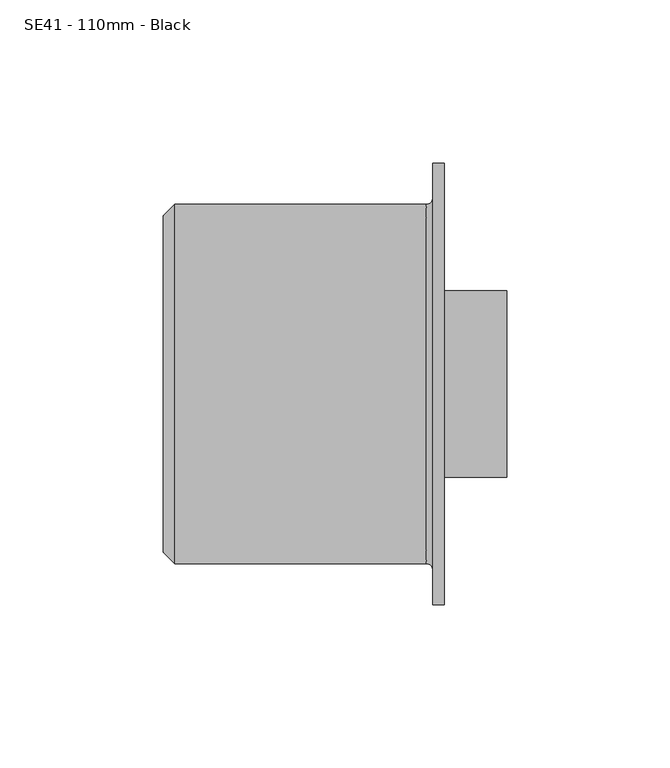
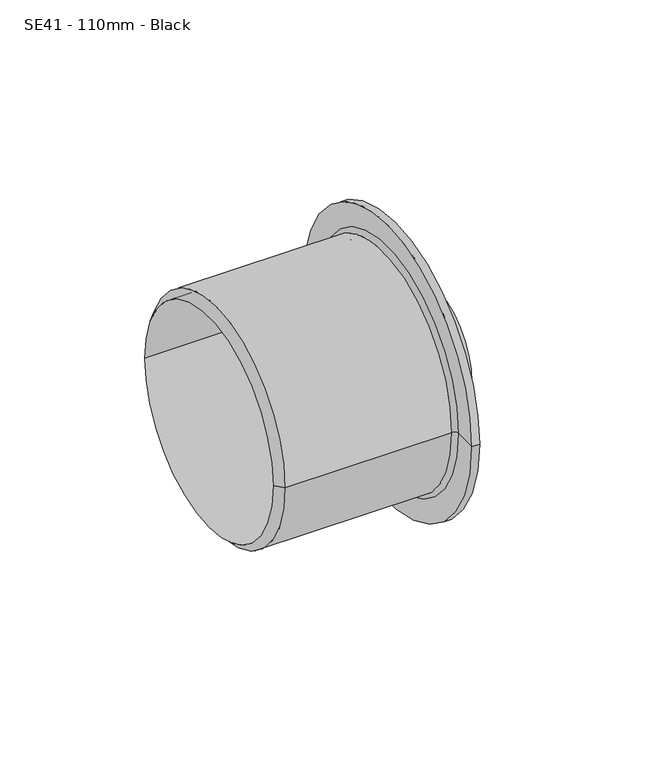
"""IFC4 building model written with IfcOpenShell, lengths in millimetres: pipe fitting geometry, MarleyPlumbingAndDrainage_PipeFitting_ConcentricReducer_SE41 : SE41 - 110mm - Black."""

from ifc_helpers import new_model, si_unit, point, frame, origin, place, context, project, spatial, polyline, circle_curve, ellipse_curve, trimmed, source, transform, mapped, element, save
from ifc_brep_helpers import plane_surface, cylinder_surface, revolved_surface, advanced_brep


def se41_110mm_black_c3975711(model_context):
    return source(origin(), model_context, "Body", "AdvancedBrep", [
        advanced_brep(
        [(-14.8253818, -51.5, 0.0), (-14.8253818, 51.5, 0.0), (-97.3253818, 51.5, 0.0), (-97.3253818, -51.5, 0.0), (-14.8253818, -25.0, 0.0), (-14.8253818, 25.0, 0.0), (7.6746182, -25.0, 0.0), (7.6746182, 25.0, 0.0), (7.6746182, -28.5, 0.0), (7.6746182, 28.5, 0.0), (-11.3253818, -28.5, 0.0), (-11.3253818, 28.5, 0.0), (-11.3253818, -67.5, 0.0), (-11.3253818, 67.5, 0.0), (-14.8253818, -67.5, 0.0), (-14.8253818, 67.5, 0.0), (-14.8253818, -57.0295216, 0.0), (-14.8253818, 57.0295216, 0.0), (-16.8549034, -55.0, 0.0), (-16.8549034, 55.0, 0.0), (-93.8253818, -55.0, 0.0), (-93.8253818, 55.0, 0.0)],
        [
            (0, 1, circle_curve(frame((-14.8253818, 0.0, 0.0), z_axis=(1.0, 0.0, 0.0), x_axis=(0.0, 1.0, 0.0)), 51.5)),
            (1, 2),
            (2, 3, circle_curve(frame((-97.3253818, 0.0, 0.0), z_axis=(-1.0, 0.0, 0.0), x_axis=(0.0, 1.0, 0.0)), 51.5)),
            (3, 0),
            (1, 0, circle_curve(frame((-14.8253818, 0.0, 0.0), z_axis=(1.0, 0.0, 0.0), x_axis=(0.0, 1.0, 0.0)), 51.5)),
            (3, 2, circle_curve(frame((-97.3253818, 0.0, 0.0), z_axis=(-1.0, 0.0, 0.0), x_axis=(0.0, 1.0, 0.0)), 51.5)),
            (4, 5, circle_curve(frame((-14.8253818, 0.0, 0.0), z_axis=(1.0, 0.0, 0.0), x_axis=(0.0, 1.0, 0.0)), 25.0)),
            (5, 1),
            (0, 4),
            (5, 4, circle_curve(frame((-14.8253818, 0.0, 0.0), z_axis=(1.0, 0.0, 0.0), x_axis=(0.0, 1.0, 0.0)), 25.0)),
            (6, 7, circle_curve(frame((7.6746182, 0.0, 0.0), z_axis=(1.0, 0.0, 0.0), x_axis=(0.0, 1.0, 0.0)), 25.0)),
            (7, 5),
            (4, 6),
            (7, 6, circle_curve(frame((7.6746182, 0.0, 0.0), z_axis=(1.0, 0.0, 0.0), x_axis=(0.0, 1.0, 0.0)), 25.0)),
            (8, 9, circle_curve(frame((7.6746182, 0.0, 0.0), z_axis=(1.0, 0.0, 0.0), x_axis=(0.0, 1.0, 0.0)), 28.5)),
            (9, 7),
            (6, 8),
            (9, 8, circle_curve(frame((7.6746182, 0.0, 0.0), z_axis=(1.0, 0.0, 0.0), x_axis=(0.0, 1.0, 0.0)), 28.5)),
            (10, 11, circle_curve(frame((-11.3253818, 0.0, 0.0), z_axis=(1.0, 0.0, 0.0), x_axis=(0.0, 1.0, 0.0)), 28.5)),
            (11, 9),
            (8, 10),
            (11, 10, circle_curve(frame((-11.3253818, 0.0, 0.0), z_axis=(1.0, 0.0, 0.0), x_axis=(0.0, 1.0, 0.0)), 28.5)),
            (12, 13, circle_curve(frame((-11.3253818, 0.0, 0.0), z_axis=(1.0, 0.0, 0.0), x_axis=(0.0, 1.0, 0.0)), 67.5)),
            (13, 11),
            (10, 12),
            (13, 12, circle_curve(frame((-11.3253818, 0.0, 0.0), z_axis=(1.0, 0.0, 0.0), x_axis=(0.0, 1.0, 0.0)), 67.5)),
            (14, 15, circle_curve(frame((-14.8253818, 0.0, 0.0), z_axis=(1.0, 0.0, 0.0), x_axis=(0.0, 1.0, 0.0)), 67.5)),
            (15, 13),
            (12, 14),
            (15, 14, circle_curve(frame((-14.8253818, 0.0, 0.0), z_axis=(1.0, 0.0, 0.0), x_axis=(0.0, 1.0, 0.0)), 67.5)),
            (16, 17, circle_curve(frame((-14.8253818, 0.0, 0.0), z_axis=(1.0, 0.0, 0.0), x_axis=(0.0, 1.0, 0.0)), 57.0295216)),
            (17, 15),
            (14, 16),
            (17, 16, circle_curve(frame((-14.8253818, 0.0, 0.0), z_axis=(1.0, 0.0, 0.0), x_axis=(0.0, 1.0, 0.0)), 57.0295216)),
            (18, 19, circle_curve(frame((-16.8549034, 0.0, 0.0), z_axis=(1.0, 0.0, 0.0), x_axis=(0.0, 1.0, 0.0)), 55.0)),
            (19, 17, circle_curve(frame((-16.8549034, 57.0295216, 0.0), z_axis=(0.0, 0.0, 1.0), x_axis=(1.0, 0.0, 0.0)), 2.0295216)),
            (16, 18, circle_curve(frame((-16.8549034, -57.0295216, 0.0), z_axis=(0.0, 0.0, 1.0), x_axis=(1.0, 0.0, 0.0)), 2.0295216)),
            (19, 18, circle_curve(frame((-16.8549034, 0.0, 0.0), z_axis=(1.0, 0.0, 0.0), x_axis=(0.0, 1.0, 0.0)), 55.0)),
            (20, 21, circle_curve(frame((-93.8253818, 0.0, 0.0), z_axis=(1.0, 0.0, 0.0), x_axis=(0.0, 1.0, 0.0)), 55.0)),
            (21, 19),
            (18, 20),
            (21, 20, circle_curve(frame((-93.8253818, 0.0, 0.0), z_axis=(1.0, 0.0, 0.0), x_axis=(0.0, 1.0, 0.0)), 55.0)),
            (2, 21),
            (20, 3),
        ],
        [
            revolved_surface(polyline([(-97.32538180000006, 51.5, 0.0), (-14.82538180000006, 51.5, 0.0)]), (2000.3, 0.0, 0.0), (-1.0, 0.0, 0.0)),
            plane_surface(frame((-14.8253818, 0.0, 0.0), z_axis=(-1.0, 0.0, 0.0), x_axis=(0.0, 1.0, 0.0))),
            revolved_surface(polyline([(-14.82538180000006, 25.0, 0.0), (7.674618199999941, 25.0, 0.0)]), (2000.3, 0.0, 0.0), (-1.0, 0.0, 0.0)),
            plane_surface(frame((7.6746182, 0.0, 0.0), z_axis=(1.0, 0.0, 0.0), x_axis=(0.0, 1.0, 0.0))),
            cylinder_surface(frame((2000.3, 0.0, 0.0), z_axis=(-1.0, 0.0, 0.0), x_axis=(0.0, 1.0, 0.0)), 28.5),
            plane_surface(frame((-11.3253818, 0.0, 0.0), z_axis=(1.0, 0.0, 0.0), x_axis=(0.0, 1.0, 0.0))),
            cylinder_surface(frame((2000.3, 0.0, 0.0), z_axis=(-1.0, 0.0, 0.0), x_axis=(0.0, 1.0, 0.0)), 67.5),
            revolved_surface(trimmed(ellipse_curve(frame((-16.8549034, 57.0295216, 0.0), z_axis=(0.0, 0.0, -1.0), x_axis=(1.0, 0.0, 0.0)), 2.0295216, 2.0295216), [point((-14.8253818, 57.0295216, 0.0))], [point((-16.8549034, 55.0, 0.0))], True, "CARTESIAN"), (2000.3, 0.0, 0.0), (-1.0, 0.0, 0.0)),
            cylinder_surface(frame((2000.3, 0.0, 0.0), z_axis=(-1.0, 0.0, 0.0), x_axis=(0.0, 1.0, 0.0)), 55.0),
            revolved_surface(polyline([(-93.8253818, 55.0, 0.0), (-97.3253818, 51.5, 0.0)]), (2000.3, 0.0, 0.0), (-1.0, 0.0, 0.0)),
        ],
        [
            (0, [[1, 2, 3, 4]]),
            (0, [[5, -4, 6, -2]]),
            (1, [[7, 8, -1, 9]]),
            (1, [[10, -9, -5, -8]]),
            (2, [[11, 12, -7, 13]]),
            (2, [[14, -13, -10, -12]]),
            (3, [[15, 16, -11, 17]]),
            (3, [[18, -17, -14, -16]]),
            (4, [[19, 20, -15, 21]]),
            (4, [[22, -21, -18, -20]]),
            (5, [[23, 24, -19, 25]]),
            (5, [[26, -25, -22, -24]]),
            (6, [[27, 28, -23, 29]]),
            (6, [[30, -29, -26, -28]]),
            (1, [[31, 32, -27, 33]]),
            (1, [[34, -33, -30, -32]]),
            (7, [[35, 36, -31, 37]]),
            (7, [[38, -37, -34, -36]]),
            (8, [[39, 40, -35, 41]]),
            (8, [[42, -41, -38, -40]]),
            (9, [[-3, 43, -39, 44]]),
            (9, [[-6, -44, -42, -43]]),
        ],
    ),
    ])


if __name__ == "__main__":
    model = new_model("IFC4")
    model_context = context("Model", 3, world=origin())
    ifc_project = project(units=[si_unit("LENGTHUNIT", "METRE", prefix="MILLI")], contexts=[model_context])
    site = spatial("IfcSite", under=ifc_project)
    building = spatial("IfcBuilding", under=site)
    placement = place(None, origin())
    se41_110mm_black_shape = se41_110mm_black_c3975711(model_context)
    element("IfcPipeFitting", 1, ObjectType="MarleyPlumbingAndDrainage_PipeFitting_ConcentricReducer_SE41 : SE41 - 110mm - Black", at=placement, inside=building, context=model_context, shape_type="MappedRepresentation", body=[
        mapped(se41_110mm_black_shape, transform((0.0, 0.0, 0.0), x_axis=(1.0, 0.0, 0.0), y_axis=(0.0, 1.0, 0.0), z_axis=(0.0, 0.0, 1.0))),
    ])
    save(model, "model.ifc")
